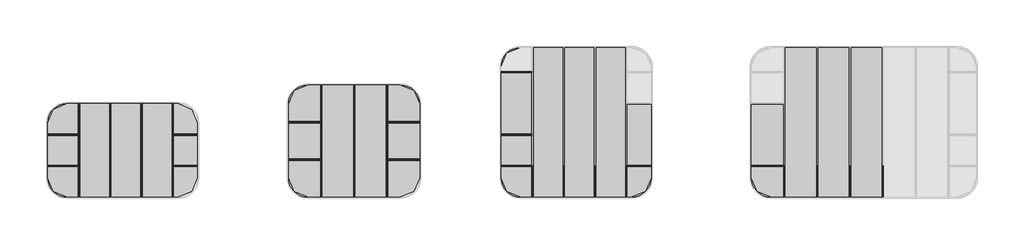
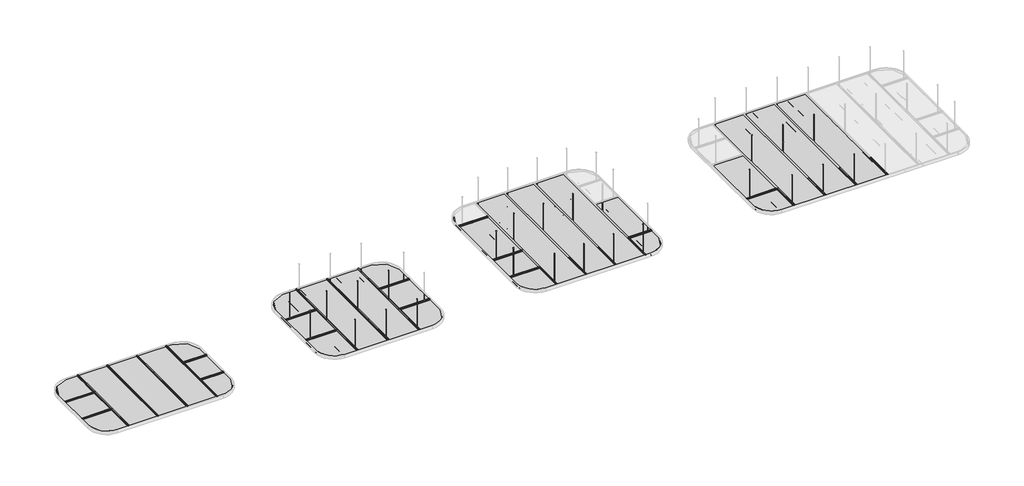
# One storey, part 1 of 4: 66 members, 64 plates.
"""IFC4 building model written with IfcOpenShell, lengths in millimetres."""

from ifc_helpers import new_model, si_unit, origin, place, context, project, spatial, transform, mapped, element, save
from components import circular_mullion_88ff0090, circular_mullion_f9b5ef4a, circular_mullion_51bf8350, circular_mullion_cross_tees_bf580255, circular_mullion_hub_cas_c634fec4, circular_mullion_hub_cas_e21eebc4, circular_mullion_hub_cas_816afe74, circular_mullion_hub_cas_a36db33c, circular_mullion_hub_cas_5b569fee, circular_mullion_hub_cas_b4c4e7a3, circular_mullion_hub_cas_db5252f6, circular_mullion_hub_cas_7fad5990, plate_458993fd, plate_e06be09b, plate_2f8602be, plate_c92e4635, plate_8db3f6ee, system_panel_solid_b9d0c9b5, system_panel_solid_64a149d8, system_panel_solid_2d10ba32, system_panel_solid_5210ac0e, system_panel_solid_d1304e09, system_panel_solid_6ef3f340, system_panel_solid_e6f4403d, system_panel_solid_672106cc, system_panel_solid_737758fe, system_panel_solid_25a6a522, system_panel_solid_93680b79, system_panel_solid_7204bcb4, system_panel_solid_5cfdd452, system_panel_solid_867bf48c, system_panel_solid_b85fb2bd, system_panel_solid_e52a666d, system_panel_solid_108f1732, system_panel_solid_23e9a8e2, system_panel_solid_573148bb, system_panel_solid_58763ecb

model = new_model("IFC4")

# Units and contexts
model_context = context("Model", 3, world=origin())
ifc_project = project(units=[si_unit("LENGTHUNIT", "METRE", prefix="MILLI")], contexts=[model_context])

# Site, building, storey
site = spatial("IfcSite", under=ifc_project)
building = spatial("IfcBuilding", under=site)
storey = spatial("IfcBuildingStorey", under=building, Name="Rockfon Hub", Elevation=2000.0)

# Members
placement = place(None, origin())
circular_mullion_shape = circular_mullion_88ff0090(model_context)
element("IfcMember", 1, ObjectType="Circular Mullion : Main Runners", at=placement, inside=storey, context=model_context, shape_type="MappedRepresentation", body=[
    mapped(circular_mullion_shape, transform((-2507.3919311, 9476.1970288, 2001.0), x_axis=(0.0, 1.0, 0.0), y_axis=(0.0, 0.0, -1.0), z_axis=(-1.0, 0.0, 0.0))),
])
element("IfcMember", 2, ObjectType="Circular Mullion : Main Runners", at=placement, inside=storey, context=model_context, shape_type="MappedRepresentation", body=[
    mapped(circular_mullion_shape, transform((-1907.3919311, 9476.1970288, 2001.0), x_axis=(0.0, 1.0, 0.0), y_axis=(0.0, 0.0, -1.0), z_axis=(-1.0, 0.0, 0.0))),
])
element("IfcMember", 3, ObjectType="Circular Mullion : Main Runners", at=placement, inside=storey, context=model_context, shape_type="MappedRepresentation", body=[
    mapped(circular_mullion_shape, transform((-1307.3919311, 9476.1970288, 2001.0), x_axis=(0.0, 1.0, 0.0), y_axis=(0.0, 0.0, -1.0), z_axis=(-1.0, 0.0, 0.0))),
])
element("IfcMember", 4, ObjectType="Circular Mullion : Main Runners", at=placement, inside=storey, context=model_context, shape_type="MappedRepresentation", body=[
    mapped(circular_mullion_shape, transform((-707.3919311, 9476.1970288, 2001.0), x_axis=(0.0, 1.0, 0.0), y_axis=(0.0, 0.0, -1.0), z_axis=(-1.0, 0.0, 0.0))),
])
element("IfcMember", 5, ObjectType="Circular Mullion : Main Runners", at=placement, inside=storey, context=model_context, shape_type="MappedRepresentation", body=[
    mapped(circular_mullion_shape, transform((-107.3919311, 9476.1970288, 2001.0), x_axis=(0.0, 1.0, 0.0), y_axis=(0.0, 0.0, -1.0), z_axis=(-1.0, 0.0, 0.0))),
])
element("IfcMember", 6, ObjectType="Circular Mullion : Main Runners", at=placement, inside=storey, context=model_context, shape_type="MappedRepresentation", body=[
    mapped(circular_mullion_shape, transform((15892.6080689, 7076.1970288, 2001.0), x_axis=(0.0, 1.0, 0.0), y_axis=(0.0, 0.0, -1.0), z_axis=(-1.0, 0.0, 0.0))),
])
element("IfcMember", 7, ObjectType="Circular Mullion : Main Runners", at=placement, inside=storey, context=model_context, shape_type="MappedRepresentation", body=[
    mapped(circular_mullion_shape, transform((15892.6080689, 7676.1970288, 2001.0), x_axis=(0.0, 1.0, 0.0), y_axis=(0.0, 0.0, -1.0), z_axis=(-1.0, 0.0, 0.0))),
])
circular_mullion_2_shape = circular_mullion_f9b5ef4a(model_context)
element("IfcMember", 8, ObjectType="Circular Mullion : Main Runners", at=placement, inside=storey, context=model_context, shape_type="MappedRepresentation", body=[
    mapped(circular_mullion_2_shape, transform((-3119.2981815, 9476.1970288, 2001.0), x_axis=(0.0, 1.0, 0.0), y_axis=(0.0, 0.0, -1.0), z_axis=(-1.0, 0.0, 0.0))),
])
element("IfcMember", 9, ObjectType="Circular Mullion : Main Runners", at=placement, inside=storey, context=model_context, shape_type="MappedRepresentation", body=[
    mapped(circular_mullion_2_shape, transform((3680.7018185, 9476.1970288, 2001.0), x_axis=(0.0, 1.0, 0.0), y_axis=(0.0, 0.0, -1.0), z_axis=(-1.0, 0.0, 0.0))),
])
element("IfcMember", 10, ObjectType="Circular Mullion : Main Runners", at=placement, inside=storey, context=model_context, shape_type="MappedRepresentation", body=[
    mapped(circular_mullion_2_shape, transform((3680.7018185, 10076.1970288, 2001.0), x_axis=(0.0, 1.0, 0.0), y_axis=(0.0, 0.0, -1.0), z_axis=(-1.0, 0.0, 0.0))),
])
element("IfcMember", 11, ObjectType="Circular Mullion : Main Runners", at=placement, inside=storey, context=model_context, shape_type="MappedRepresentation", body=[
    mapped(circular_mullion_2_shape, transform((3680.7018185, 10676.1970288, 2001.0), x_axis=(0.0, 1.0, 0.0), y_axis=(0.0, 0.0, -1.0), z_axis=(-1.0, 0.0, 0.0))),
])
circular_mullion_3_shape = circular_mullion_51bf8350(model_context)
element("IfcMember", 12, ObjectType="Circular Mullion : Main Runners", at=placement, inside=storey, context=model_context, shape_type="MappedRepresentation", body=[
    mapped(circular_mullion_3_shape, transform((492.6080689, 9476.1970288, 2001.0), x_axis=(0.0, 1.0, 0.0), y_axis=(0.0, 0.0, -1.0), z_axis=(-1.0, 0.0, 0.0))),
])
element("IfcMember", 13, ObjectType="Circular Mullion : Main Runners", at=placement, inside=storey, context=model_context, shape_type="MappedRepresentation", body=[
    mapped(circular_mullion_3_shape, transform((7892.6080689, 7076.1970288, 2001.0), x_axis=(0.0, 1.0, 0.0), y_axis=(0.0, 0.0, -1.0), z_axis=(-1.0, 0.0, 0.0))),
])
element("IfcMember", 14, ObjectType="Circular Mullion : Main Runners", at=placement, inside=storey, context=model_context, shape_type="MappedRepresentation", body=[
    mapped(circular_mullion_3_shape, transform((7892.6080689, 7676.1970288, 2001.0), x_axis=(0.0, 1.0, 0.0), y_axis=(0.0, 0.0, -1.0), z_axis=(-1.0, 0.0, 0.0))),
])
circular_mullion_cross_tees_shape = circular_mullion_cross_tees_bf580255(model_context)
element("IfcMember", 15, ObjectType="Circular Mullion : Cross Tees", at=placement, inside=storey, context=model_context, shape_type="MappedRepresentation", body=[
    mapped(circular_mullion_cross_tees_shape, transform((-2519.2981811, 9476.1970288, 2001.0), x_axis=(1.0, 0.0, 0.0), y_axis=(0.0, 0.0, -1.0), z_axis=(0.0, 1.0, 0.0))),
])
element("IfcMember", 16, ObjectType="Circular Mullion : Cross Tees", at=placement, inside=storey, context=model_context, shape_type="MappedRepresentation", body=[
    mapped(circular_mullion_cross_tees_shape, transform((-1919.2981811, 9476.1970288, 2001.0), x_axis=(1.0, 0.0, 0.0), y_axis=(0.0, 0.0, -1.0), z_axis=(0.0, 1.0, 0.0))),
])
element("IfcMember", 17, ObjectType="Circular Mullion : Cross Tees", at=placement, inside=storey, context=model_context, shape_type="MappedRepresentation", body=[
    mapped(circular_mullion_cross_tees_shape, transform((-1319.2981811, 9476.1970288, 2001.0), x_axis=(1.0, 0.0, 0.0), y_axis=(0.0, 0.0, -1.0), z_axis=(0.0, 1.0, 0.0))),
])
element("IfcMember", 18, ObjectType="Circular Mullion : Cross Tees", at=placement, inside=storey, context=model_context, shape_type="MappedRepresentation", body=[
    mapped(circular_mullion_cross_tees_shape, transform((-719.2981811, 9476.1970288, 2001.0), x_axis=(1.0, 0.0, 0.0), y_axis=(0.0, 0.0, -1.0), z_axis=(0.0, 1.0, 0.0))),
])
element("IfcMember", 19, ObjectType="Circular Mullion : Cross Tees", at=placement, inside=storey, context=model_context, shape_type="MappedRepresentation", body=[
    mapped(circular_mullion_cross_tees_shape, transform((-119.2981811, 9476.1970288, 2001.0), x_axis=(1.0, 0.0, 0.0), y_axis=(0.0, 0.0, -1.0), z_axis=(0.0, 1.0, 0.0))),
])
element("IfcMember", 20, ObjectType="Circular Mullion : Cross Tees", at=placement, inside=storey, context=model_context, shape_type="MappedRepresentation", body=[
    mapped(circular_mullion_cross_tees_shape, transform((480.7018189, 9476.1970288, 2001.0), x_axis=(1.0, 0.0, 0.0), y_axis=(0.0, 0.0, -1.0), z_axis=(0.0, 1.0, 0.0))),
])
element("IfcMember", 21, ObjectType="Circular Mullion : Cross Tees", at=placement, inside=storey, context=model_context, shape_type="MappedRepresentation", body=[
    mapped(circular_mullion_cross_tees_shape, transform((7880.7018189, 7676.1970288, 2001.0), x_axis=(1.0, 0.0, 0.0), y_axis=(0.0, 0.0, -1.0), z_axis=(0.0, 1.0, 0.0))),
])
element("IfcMember", 22, ObjectType="Circular Mullion : Cross Tees", at=placement, inside=storey, context=model_context, shape_type="MappedRepresentation", body=[
    mapped(circular_mullion_cross_tees_shape, transform((15880.7018189, 7676.1970288, 2001.0), x_axis=(1.0, 0.0, 0.0), y_axis=(0.0, 0.0, -1.0), z_axis=(0.0, 1.0, 0.0))),
])
element("IfcMember", 23, ObjectType="Circular Mullion : Cross Tees", at=placement, inside=storey, context=model_context, shape_type="MappedRepresentation", body=[
    mapped(circular_mullion_cross_tees_shape, transform((7880.7018189, 7076.1970288, 2001.0), x_axis=(1.0, 0.0, 0.0), y_axis=(0.0, 0.0, -1.0), z_axis=(0.0, 1.0, 0.0))),
])
element("IfcMember", 24, ObjectType="Circular Mullion : Cross Tees", at=placement, inside=storey, context=model_context, shape_type="MappedRepresentation", body=[
    mapped(circular_mullion_cross_tees_shape, transform((15880.7018189, 7076.1970288, 2001.0), x_axis=(1.0, 0.0, 0.0), y_axis=(0.0, 0.0, -1.0), z_axis=(0.0, 1.0, 0.0))),
])
circular_mullion_hub_cas_shape = circular_mullion_hub_cas_c634fec4(model_context)
element("IfcMember", 25, ObjectType="Circular Mullion : HUB CAS", at=placement, inside=storey, context=model_context, shape_type="MappedRepresentation", body=[
    mapped(circular_mullion_hub_cas_shape, transform((-10814.1481813, 7480.9870288, 2050.0), x_axis=(0.0, 1.0, 0.0), y_axis=(0.0, 0.0, -1.0), z_axis=(-1.0, 0.0, 0.0))),
])
element("IfcMember", 26, ObjectType="Circular Mullion : HUB CAS", at=placement, inside=storey, context=model_context, shape_type="MappedRepresentation", body=[
    mapped(circular_mullion_hub_cas_shape, transform((-10814.1481813, 8480.9870288, 2050.0), x_axis=(0.0, 1.0, 0.0), y_axis=(0.0, 0.0, -1.0), z_axis=(-1.0, 0.0, 0.0))),
])
element("IfcMember", 27, ObjectType="Circular Mullion : HUB CAS", at=placement, inside=storey, context=model_context, shape_type="MappedRepresentation", body=[
    mapped(circular_mullion_hub_cas_shape, transform((3685.8518187, 7480.9870288, 2050.0), x_axis=(0.0, 1.0, 0.0), y_axis=(0.0, 0.0, -1.0), z_axis=(-1.0, 0.0, 0.0))),
])
element("IfcMember", 28, ObjectType="Circular Mullion : HUB CAS", at=placement, inside=storey, context=model_context, shape_type="MappedRepresentation", body=[
    mapped(circular_mullion_hub_cas_shape, transform((3685.8518187, 8480.9870288, 2050.0), x_axis=(0.0, 1.0, 0.0), y_axis=(0.0, 0.0, -1.0), z_axis=(-1.0, 0.0, 0.0))),
])
element("IfcMember", 29, ObjectType="Circular Mullion : HUB CAS", at=placement, inside=storey, context=model_context, shape_type="MappedRepresentation", body=[
    mapped(circular_mullion_hub_cas_shape, transform((3685.8518187, 10480.9870288, 2050.0), x_axis=(0.0, 1.0, 0.0), y_axis=(0.0, 0.0, -1.0), z_axis=(-1.0, 0.0, 0.0))),
])
circular_mullion_hub_cas_2_shape = circular_mullion_hub_cas_e21eebc4(model_context)
element("IfcMember", 30, ObjectType="Circular Mullion : HUB CAS", at=placement, inside=storey, context=model_context, shape_type="MappedRepresentation", body=[
    mapped(circular_mullion_hub_cas_2_shape, transform((-6794.149257, 7480.9870288, 2050.0), x_axis=(0.0, 1.0, 0.0), y_axis=(0.0, 0.0, -1.0), z_axis=(-1.0, 0.0, 0.0))),
])
element("IfcMember", 31, ObjectType="Circular Mullion : HUB CAS", at=placement, inside=storey, context=model_context, shape_type="MappedRepresentation", body=[
    mapped(circular_mullion_hub_cas_2_shape, transform((-6794.149257, 8480.9870288, 2050.0), x_axis=(0.0, 1.0, 0.0), y_axis=(0.0, 0.0, -1.0), z_axis=(-1.0, 0.0, 0.0))),
])
element("IfcMember", 32, ObjectType="Circular Mullion : HUB CAS", at=placement, inside=storey, context=model_context, shape_type="MappedRepresentation", body=[
    mapped(circular_mullion_hub_cas_2_shape, transform((7705.850743, 7480.9870288, 2050.0), x_axis=(0.0, 1.0, 0.0), y_axis=(0.0, 0.0, -1.0), z_axis=(-1.0, 0.0, 0.0))),
])
circular_mullion_hub_cas_3_shape = circular_mullion_hub_cas_816afe74(model_context)
element("IfcMember", 33, ObjectType="Circular Mullion : HUB CAS", at=placement, inside=storey, context=model_context, shape_type="MappedRepresentation", body=[
    mapped(circular_mullion_hub_cas_3_shape, transform((-9814.148181, 9470.9870288, 2050.0), x_axis=(1.0, 0.0, 0.0), y_axis=(0.0, 0.0, -1.0), z_axis=(0.0, 1.0, 0.0))),
])
element("IfcMember", 34, ObjectType="Circular Mullion : HUB CAS", at=placement, inside=storey, context=model_context, shape_type="MappedRepresentation", body=[
    mapped(circular_mullion_hub_cas_3_shape, transform((-6814.148181, 9470.9870288, 2050.0), x_axis=(1.0, 0.0, 0.0), y_axis=(0.0, 0.0, -1.0), z_axis=(0.0, 1.0, 0.0))),
])
circular_mullion_hub_cas_4_shape = circular_mullion_hub_cas_a36db33c(model_context)
element("IfcMember", 35, ObjectType="Circular Mullion : HUB CAS", at=placement, inside=storey, context=model_context, shape_type="MappedRepresentation", body=[
    mapped(circular_mullion_hub_cas_4_shape, transform((-9814.148181, 7480.9870288, 2050.0), x_axis=(1.0, 0.0, 0.0), y_axis=(0.0, 0.0, -1.0), z_axis=(0.0, 1.0, 0.0))),
])
element("IfcMember", 36, ObjectType="Circular Mullion : HUB CAS", at=placement, inside=storey, context=model_context, shape_type="MappedRepresentation", body=[
    mapped(circular_mullion_hub_cas_4_shape, transform((-6814.148181, 7480.9870288, 2050.0), x_axis=(1.0, 0.0, 0.0), y_axis=(0.0, 0.0, -1.0), z_axis=(0.0, 1.0, 0.0))),
])
element("IfcMember", 37, ObjectType="Circular Mullion : HUB CAS", at=placement, inside=storey, context=model_context, shape_type="MappedRepresentation", body=[
    mapped(circular_mullion_hub_cas_4_shape, transform((4685.851819, 7480.9870288, 2050.0), x_axis=(1.0, 0.0, 0.0), y_axis=(0.0, 0.0, -1.0), z_axis=(0.0, 1.0, 0.0))),
])
element("IfcMember", 38, ObjectType="Circular Mullion : HUB CAS", at=placement, inside=storey, context=model_context, shape_type="MappedRepresentation", body=[
    mapped(circular_mullion_hub_cas_4_shape, transform((7685.851819, 7480.9870288, 2050.0), x_axis=(1.0, 0.0, 0.0), y_axis=(0.0, 0.0, -1.0), z_axis=(0.0, 1.0, 0.0))),
])
element("IfcMember", 39, ObjectType="Circular Mullion : HUB CAS", at=placement, inside=storey, context=model_context, shape_type="MappedRepresentation", body=[
    mapped(circular_mullion_hub_cas_4_shape, transform((12735.851819, 7480.9870288, 2050.0), x_axis=(1.0, 0.0, 0.0), y_axis=(0.0, 0.0, -1.0), z_axis=(0.0, 1.0, 0.0))),
])
element("IfcMember", 40, ObjectType="Circular Mullion : HUB CAS", at=placement, inside=storey, context=model_context, shape_type="MappedRepresentation", body=[
    mapped(circular_mullion_hub_cas_4_shape, transform((-9814.148181, 8480.9870288, 2050.0), x_axis=(1.0, 0.0, 0.0), y_axis=(0.0, 0.0, -1.0), z_axis=(0.0, 1.0, 0.0))),
])
element("IfcMember", 41, ObjectType="Circular Mullion : HUB CAS", at=placement, inside=storey, context=model_context, shape_type="MappedRepresentation", body=[
    mapped(circular_mullion_hub_cas_4_shape, transform((-6814.148181, 8480.9870288, 2050.0), x_axis=(1.0, 0.0, 0.0), y_axis=(0.0, 0.0, -1.0), z_axis=(0.0, 1.0, 0.0))),
])
element("IfcMember", 42, ObjectType="Circular Mullion : HUB CAS", at=placement, inside=storey, context=model_context, shape_type="MappedRepresentation", body=[
    mapped(circular_mullion_hub_cas_3_shape, transform((-8814.148181, 9470.9870288, 2050.0), x_axis=(1.0, 0.0, 0.0), y_axis=(0.0, 0.0, -1.0), z_axis=(0.0, 1.0, 0.0))),
])
element("IfcMember", 43, ObjectType="Circular Mullion : HUB CAS", at=placement, inside=storey, context=model_context, shape_type="MappedRepresentation", body=[
    mapped(circular_mullion_hub_cas_3_shape, transform((-7814.148181, 9470.9870288, 2050.0), x_axis=(1.0, 0.0, 0.0), y_axis=(0.0, 0.0, -1.0), z_axis=(0.0, 1.0, 0.0))),
])
element("IfcMember", 44, ObjectType="Circular Mullion : HUB CAS", at=placement, inside=storey, context=model_context, shape_type="MappedRepresentation", body=[
    mapped(circular_mullion_hub_cas_4_shape, transform((-8814.148181, 7480.9870288, 2050.0), x_axis=(1.0, 0.0, 0.0), y_axis=(0.0, 0.0, -1.0), z_axis=(0.0, 1.0, 0.0))),
])
element("IfcMember", 45, ObjectType="Circular Mullion : HUB CAS", at=placement, inside=storey, context=model_context, shape_type="MappedRepresentation", body=[
    mapped(circular_mullion_hub_cas_4_shape, transform((-7814.148181, 7480.9870288, 2050.0), x_axis=(1.0, 0.0, 0.0), y_axis=(0.0, 0.0, -1.0), z_axis=(0.0, 1.0, 0.0))),
])
element("IfcMember", 46, ObjectType="Circular Mullion : HUB CAS", at=placement, inside=storey, context=model_context, shape_type="MappedRepresentation", body=[
    mapped(circular_mullion_hub_cas_4_shape, transform((5685.851819, 7480.9870288, 2050.0), x_axis=(1.0, 0.0, 0.0), y_axis=(0.0, 0.0, -1.0), z_axis=(0.0, 1.0, 0.0))),
])
element("IfcMember", 47, ObjectType="Circular Mullion : HUB CAS", at=placement, inside=storey, context=model_context, shape_type="MappedRepresentation", body=[
    mapped(circular_mullion_hub_cas_4_shape, transform((6685.851819, 7480.9870288, 2050.0), x_axis=(1.0, 0.0, 0.0), y_axis=(0.0, 0.0, -1.0), z_axis=(0.0, 1.0, 0.0))),
])
element("IfcMember", 48, ObjectType="Circular Mullion : HUB CAS", at=placement, inside=storey, context=model_context, shape_type="MappedRepresentation", body=[
    mapped(circular_mullion_hub_cas_4_shape, transform((13785.851819, 7480.9870288, 2050.0), x_axis=(1.0, 0.0, 0.0), y_axis=(0.0, 0.0, -1.0), z_axis=(0.0, 1.0, 0.0))),
])
element("IfcMember", 49, ObjectType="Circular Mullion : HUB CAS", at=placement, inside=storey, context=model_context, shape_type="MappedRepresentation", body=[
    mapped(circular_mullion_hub_cas_4_shape, transform((14835.851819, 7480.9870288, 2050.0), x_axis=(1.0, 0.0, 0.0), y_axis=(0.0, 0.0, -1.0), z_axis=(0.0, 1.0, 0.0))),
])
element("IfcMember", 50, ObjectType="Circular Mullion : HUB CAS", at=placement, inside=storey, context=model_context, shape_type="MappedRepresentation", body=[
    mapped(circular_mullion_hub_cas_4_shape, transform((15885.851819, 7480.9870288, 2050.0), x_axis=(1.0, 0.0, 0.0), y_axis=(0.0, 0.0, -1.0), z_axis=(0.0, 1.0, 0.0))),
])
element("IfcMember", 51, ObjectType="Circular Mullion : HUB CAS", at=placement, inside=storey, context=model_context, shape_type="MappedRepresentation", body=[
    mapped(circular_mullion_hub_cas_4_shape, transform((-8814.148181, 8480.9870288, 2050.0), x_axis=(1.0, 0.0, 0.0), y_axis=(0.0, 0.0, -1.0), z_axis=(0.0, 1.0, 0.0))),
])
element("IfcMember", 52, ObjectType="Circular Mullion : HUB CAS", at=placement, inside=storey, context=model_context, shape_type="MappedRepresentation", body=[
    mapped(circular_mullion_hub_cas_4_shape, transform((-7814.148181, 8480.9870288, 2050.0), x_axis=(1.0, 0.0, 0.0), y_axis=(0.0, 0.0, -1.0), z_axis=(0.0, 1.0, 0.0))),
])
circular_mullion_hub_cas_5_shape = circular_mullion_hub_cas_5b569fee(model_context)
element("IfcMember", 53, ObjectType="Circular Mullion : HUB CAS", at=placement, inside=storey, context=model_context, shape_type="MappedRepresentation", body=[
    mapped(circular_mullion_hub_cas_5_shape, transform((-2064.148181, 10070.9870288, 2050.0), x_axis=(1.0, 0.0, 0.0), y_axis=(0.0, 0.0, -1.0), z_axis=(0.0, 1.0, 0.0))),
])
element("IfcMember", 54, ObjectType="Circular Mullion : HUB CAS", at=placement, inside=storey, context=model_context, shape_type="MappedRepresentation", body=[
    mapped(circular_mullion_hub_cas_5_shape, transform((35.851819, 10070.9870288, 2050.0), x_axis=(1.0, 0.0, 0.0), y_axis=(0.0, 0.0, -1.0), z_axis=(0.0, 1.0, 0.0))),
])
circular_mullion_hub_cas_6_shape = circular_mullion_hub_cas_b4c4e7a3(model_context)
element("IfcMember", 55, ObjectType="Circular Mullion : HUB CAS", at=placement, inside=storey, context=model_context, shape_type="MappedRepresentation", body=[
    mapped(circular_mullion_hub_cas_6_shape, transform((-2064.148181, 7680.9870288, 2050.0), x_axis=(1.0, 0.0, 0.0), y_axis=(0.0, 0.0, -1.0), z_axis=(0.0, 1.0, 0.0))),
])
element("IfcMember", 56, ObjectType="Circular Mullion : HUB CAS", at=placement, inside=storey, context=model_context, shape_type="MappedRepresentation", body=[
    mapped(circular_mullion_hub_cas_6_shape, transform((35.851819, 7680.9870288, 2050.0), x_axis=(1.0, 0.0, 0.0), y_axis=(0.0, 0.0, -1.0), z_axis=(0.0, 1.0, 0.0))),
])
element("IfcMember", 57, ObjectType="Circular Mullion : HUB CAS", at=placement, inside=storey, context=model_context, shape_type="MappedRepresentation", body=[
    mapped(circular_mullion_hub_cas_6_shape, transform((-2064.148181, 8880.9870288, 2050.0), x_axis=(1.0, 0.0, 0.0), y_axis=(0.0, 0.0, -1.0), z_axis=(0.0, 1.0, 0.0))),
])
element("IfcMember", 58, ObjectType="Circular Mullion : HUB CAS", at=placement, inside=storey, context=model_context, shape_type="MappedRepresentation", body=[
    mapped(circular_mullion_hub_cas_6_shape, transform((35.851819, 8880.9870288, 2050.0), x_axis=(1.0, 0.0, 0.0), y_axis=(0.0, 0.0, -1.0), z_axis=(0.0, 1.0, 0.0))),
])
circular_mullion_hub_cas_7_shape = circular_mullion_hub_cas_db5252f6(model_context)
element("IfcMember", 59, ObjectType="Circular Mullion : HUB CAS", at=placement, inside=storey, context=model_context, shape_type="MappedRepresentation", body=[
    mapped(circular_mullion_hub_cas_7_shape, transform((-3114.1481813, 7680.9870288, 2050.0), x_axis=(0.0, 1.0, 0.0), y_axis=(0.0, 0.0, -1.0), z_axis=(-1.0, 0.0, 0.0))),
])
element("IfcMember", 60, ObjectType="Circular Mullion : HUB CAS", at=placement, inside=storey, context=model_context, shape_type="MappedRepresentation", body=[
    mapped(circular_mullion_hub_cas_7_shape, transform((-3114.1481813, 8880.9870288, 2050.0), x_axis=(0.0, 1.0, 0.0), y_axis=(0.0, 0.0, -1.0), z_axis=(-1.0, 0.0, 0.0))),
])
element("IfcMember", 61, ObjectType="Circular Mullion : HUB CAS", at=placement, inside=storey, context=model_context, shape_type="MappedRepresentation", body=[
    mapped(circular_mullion_hub_cas_7_shape, transform((11685.8518187, 7480.9870288, 2050.0), x_axis=(0.0, 1.0, 0.0), y_axis=(0.0, 0.0, -1.0), z_axis=(-1.0, 0.0, 0.0))),
])
circular_mullion_hub_cas_8_shape = circular_mullion_hub_cas_7fad5990(model_context)
element("IfcMember", 62, ObjectType="Circular Mullion : HUB CAS", at=placement, inside=storey, context=model_context, shape_type="MappedRepresentation", body=[
    mapped(circular_mullion_hub_cas_8_shape, transform((55.850743, 7680.9870288, 2050.0), x_axis=(0.0, 1.0, 0.0), y_axis=(0.0, 0.0, -1.0), z_axis=(-1.0, 0.0, 0.0))),
])
element("IfcMember", 63, ObjectType="Circular Mullion : HUB CAS", at=placement, inside=storey, context=model_context, shape_type="MappedRepresentation", body=[
    mapped(circular_mullion_hub_cas_8_shape, transform((55.850743, 8880.9870288, 2050.0), x_axis=(0.0, 1.0, 0.0), y_axis=(0.0, 0.0, -1.0), z_axis=(-1.0, 0.0, 0.0))),
])
element("IfcMember", 64, ObjectType="Circular Mullion : HUB CAS", at=placement, inside=storey, context=model_context, shape_type="MappedRepresentation", body=[
    mapped(circular_mullion_hub_cas_6_shape, transform((-1014.148181, 7680.9870288, 2050.0), x_axis=(1.0, 0.0, 0.0), y_axis=(0.0, 0.0, -1.0), z_axis=(0.0, 1.0, 0.0))),
])
element("IfcMember", 65, ObjectType="Circular Mullion : HUB CAS", at=placement, inside=storey, context=model_context, shape_type="MappedRepresentation", body=[
    mapped(circular_mullion_hub_cas_5_shape, transform((-1014.148181, 10070.9870288, 2050.0), x_axis=(1.0, 0.0, 0.0), y_axis=(0.0, 0.0, -1.0), z_axis=(0.0, 1.0, 0.0))),
])
element("IfcMember", 66, ObjectType="Circular Mullion : HUB CAS", at=placement, inside=storey, context=model_context, shape_type="MappedRepresentation", body=[
    mapped(circular_mullion_hub_cas_6_shape, transform((-1014.148181, 8880.9870288, 2050.0), x_axis=(1.0, 0.0, 0.0), y_axis=(0.0, 0.0, -1.0), z_axis=(0.0, 1.0, 0.0))),
])

# Plates
plate_shape = plate_458993fd(model_context)
element("IfcPlate", 67, ObjectType="Rockfon X CORNER 2 : Rockfon Blanka X", at=placement, inside=storey, context=model_context, shape_type="MappedRepresentation", body=[
    mapped(plate_shape, transform((-10519.2981813, 6476.1970288, 2001.0), x_axis=(1.0, 0.0, 0.0), y_axis=(0.0, 0.0, -1.0), z_axis=(0.0, 1.0, 0.0))),
])
element("IfcPlate", 68, ObjectType="Rockfon X CORNER 2 : Rockfon Blanka X", at=placement, inside=storey, context=model_context, shape_type="MappedRepresentation", body=[
    mapped(plate_shape, transform((-2819.2981813, 6476.1970288, 2001.0), x_axis=(1.0, 0.0, 0.0), y_axis=(0.0, 0.0, -1.0), z_axis=(0.0, 1.0, 0.0))),
])
element("IfcPlate", 69, ObjectType="Rockfon X CORNER 2 : Rockfon Blanka X", at=placement, inside=storey, context=model_context, shape_type="MappedRepresentation", body=[
    mapped(plate_shape, transform((3980.7018187, 6476.1970288, 2001.0), x_axis=(1.0, 0.0, 0.0), y_axis=(0.0, 0.0, -1.0), z_axis=(0.0, 1.0, 0.0))),
])
element("IfcPlate", 70, ObjectType="Rockfon X CORNER 2 : Rockfon Blanka X", at=placement, inside=storey, context=model_context, shape_type="MappedRepresentation", body=[
    mapped(plate_shape, transform((11980.7018187, 6476.1970288, 2001.0), x_axis=(1.0, 0.0, 0.0), y_axis=(0.0, 0.0, -1.0), z_axis=(0.0, 1.0, 0.0))),
])
plate_2_shape = plate_e06be09b(model_context)
element("IfcPlate", 71, ObjectType="Rockfon X CORNER 3 : Rockfon Blanka X", at=placement, inside=storey, context=model_context, shape_type="MappedRepresentation", body=[
    mapped(plate_2_shape, transform((8180.7018187, 6476.1970288, 2001.0), x_axis=(1.0, 0.0, 0.0), y_axis=(0.0, 0.0, -1.0), z_axis=(0.0, 1.0, 0.0))),
])
plate_3_shape = plate_2f8602be(model_context)
element("IfcPlate", 72, ObjectType="Rockfon X CORNER 4 : Rockfon Blanka X", at=placement, inside=storey, context=model_context, shape_type="MappedRepresentation", body=[
    mapped(plate_3_shape, transform((780.7018187, 9476.1970288, 2001.0), x_axis=(1.0, 0.0, 0.0), y_axis=(0.0, 0.0, -1.0), z_axis=(0.0, 1.0, 0.0))),
])
plate_4_shape = plate_c92e4635(model_context)
element("IfcPlate", 73, ObjectType="Rockfon X CORNER : Rockfon Blanka X", at=placement, inside=storey, context=model_context, shape_type="MappedRepresentation", body=[
    mapped(plate_4_shape, transform((-10519.2981813, 8876.1970288, 2001.0), x_axis=(1.0, 0.0, 0.0), y_axis=(0.0, 0.0, -1.0), z_axis=(0.0, 1.0, 0.0))),
])
element("IfcPlate", 74, ObjectType="Rockfon X CORNER : Rockfon Blanka X", at=placement, inside=storey, context=model_context, shape_type="MappedRepresentation", body=[
    mapped(plate_4_shape, transform((-2819.2981813, 9476.1970288, 2001.0), x_axis=(1.0, 0.0, 0.0), y_axis=(0.0, 0.0, -1.0), z_axis=(0.0, 1.0, 0.0))),
])
element("IfcPlate", 75, ObjectType="Rockfon X CORNER : Rockfon Blanka X", at=placement, inside=storey, context=model_context, shape_type="MappedRepresentation", body=[
    mapped(plate_4_shape, transform((3980.7018187, 10676.1970288, 2001.0), x_axis=(1.0, 0.0, 0.0), y_axis=(0.0, 0.0, -1.0), z_axis=(0.0, 1.0, 0.0))),
])
plate_5_shape = plate_8db3f6ee(model_context)
element("IfcPlate", 76, ObjectType="Rockfon Blanka X : Rockfon Blanka X", at=placement, inside=storey, context=model_context, shape_type="MappedRepresentation", body=[
    mapped(plate_5_shape, transform((-9919.2981811, 6476.1970288, 2001.0), x_axis=(1.0, 0.0, 0.0), y_axis=(0.0, 0.0, -1.0), z_axis=(0.0, 1.0, 0.0))),
])
element("IfcPlate", 77, ObjectType="Rockfon Blanka X : Rockfon Blanka X", at=placement, inside=storey, context=model_context, shape_type="MappedRepresentation", body=[
    mapped(plate_5_shape, transform((-9919.2981811, 8876.1970288, 2001.0), x_axis=(1.0, 0.0, 0.0), y_axis=(0.0, 0.0, -1.0), z_axis=(0.0, 1.0, 0.0))),
])
element("IfcPlate", 78, ObjectType="Rockfon Blanka X : Rockfon Blanka X", at=placement, inside=storey, context=model_context, shape_type="MappedRepresentation", body=[
    mapped(plate_5_shape, transform((-10519.2981813, 7076.1970288, 2001.0), x_axis=(1.0, 0.0, 0.0), y_axis=(0.0, 0.0, -1.0), z_axis=(0.0, 1.0, 0.0))),
])
element("IfcPlate", 79, ObjectType="Rockfon Blanka X : Rockfon Blanka X", at=placement, inside=storey, context=model_context, shape_type="MappedRepresentation", body=[
    mapped(plate_5_shape, transform((-10519.2981813, 8276.1970288, 2001.0), x_axis=(1.0, 0.0, 0.0), y_axis=(0.0, 0.0, -1.0), z_axis=(0.0, 1.0, 0.0))),
])
element("IfcPlate", 80, ObjectType="Rockfon Blanka X : Rockfon Blanka X", at=placement, inside=storey, context=model_context, shape_type="MappedRepresentation", body=[
    mapped(plate_5_shape, transform((-2219.2981811, 6476.1970288, 2001.0), x_axis=(1.0, 0.0, 0.0), y_axis=(0.0, 0.0, -1.0), z_axis=(0.0, 1.0, 0.0))),
])
element("IfcPlate", 81, ObjectType="Rockfon Blanka X : Rockfon Blanka X", at=placement, inside=storey, context=model_context, shape_type="MappedRepresentation", body=[
    mapped(plate_5_shape, transform((-2219.2981811, 8876.1970288, 2001.0), x_axis=(1.0, 0.0, 0.0), y_axis=(0.0, 0.0, -1.0), z_axis=(0.0, 1.0, 0.0))),
])
element("IfcPlate", 82, ObjectType="Rockfon Blanka X : Rockfon Blanka X", at=placement, inside=storey, context=model_context, shape_type="MappedRepresentation", body=[
    mapped(plate_5_shape, transform((-2819.2981813, 7076.1970288, 2001.0), x_axis=(1.0, 0.0, 0.0), y_axis=(0.0, 0.0, -1.0), z_axis=(0.0, 1.0, 0.0))),
])
element("IfcPlate", 83, ObjectType="Rockfon Blanka X : Rockfon Blanka X", at=placement, inside=storey, context=model_context, shape_type="MappedRepresentation", body=[
    mapped(plate_5_shape, transform((-2819.2981813, 8276.1970288, 2001.0), x_axis=(1.0, 0.0, 0.0), y_axis=(0.0, 0.0, -1.0), z_axis=(0.0, 1.0, 0.0))),
])
element("IfcPlate", 84, ObjectType="Rockfon Blanka X : Rockfon Blanka X", at=placement, inside=storey, context=model_context, shape_type="MappedRepresentation", body=[
    mapped(plate_5_shape, transform((-2819.2981813, 8876.1970288, 2001.0), x_axis=(1.0, 0.0, 0.0), y_axis=(0.0, 0.0, -1.0), z_axis=(0.0, 1.0, 0.0))),
])
element("IfcPlate", 85, ObjectType="Rockfon Blanka X : Rockfon Blanka X", at=placement, inside=storey, context=model_context, shape_type="MappedRepresentation", body=[
    mapped(plate_5_shape, transform((-2219.2981811, 9476.1970288, 2001.0), x_axis=(1.0, 0.0, 0.0), y_axis=(0.0, 0.0, -1.0), z_axis=(0.0, 1.0, 0.0))),
])
element("IfcPlate", 86, ObjectType="Rockfon Blanka X : Rockfon Blanka X", at=placement, inside=storey, context=model_context, shape_type="MappedRepresentation", body=[
    mapped(plate_5_shape, transform((-1619.2981811, 9476.1970288, 2001.0), x_axis=(1.0, 0.0, 0.0), y_axis=(0.0, 0.0, -1.0), z_axis=(0.0, 1.0, 0.0))),
])
element("IfcPlate", 87, ObjectType="Rockfon Blanka X : Rockfon Blanka X", at=placement, inside=storey, context=model_context, shape_type="MappedRepresentation", body=[
    mapped(plate_5_shape, transform((-1019.2981811, 9476.1970288, 2001.0), x_axis=(1.0, 0.0, 0.0), y_axis=(0.0, 0.0, -1.0), z_axis=(0.0, 1.0, 0.0))),
])
element("IfcPlate", 88, ObjectType="Rockfon Blanka X : Rockfon Blanka X", at=placement, inside=storey, context=model_context, shape_type="MappedRepresentation", body=[
    mapped(plate_5_shape, transform((-419.2981811, 9476.1970288, 2001.0), x_axis=(1.0, 0.0, 0.0), y_axis=(0.0, 0.0, -1.0), z_axis=(0.0, 1.0, 0.0))),
])
element("IfcPlate", 89, ObjectType="Rockfon Blanka X : Rockfon Blanka X", at=placement, inside=storey, context=model_context, shape_type="MappedRepresentation", body=[
    mapped(plate_5_shape, transform((180.7018189, 9476.1970288, 2001.0), x_axis=(1.0, 0.0, 0.0), y_axis=(0.0, 0.0, -1.0), z_axis=(0.0, 1.0, 0.0))),
])
element("IfcPlate", 90, ObjectType="Rockfon Blanka X : Rockfon Blanka X", at=placement, inside=storey, context=model_context, shape_type="MappedRepresentation", body=[
    mapped(plate_5_shape, transform((4580.7018189, 6476.1970288, 2001.0), x_axis=(1.0, 0.0, 0.0), y_axis=(0.0, 0.0, -1.0), z_axis=(0.0, 1.0, 0.0))),
])
element("IfcPlate", 91, ObjectType="Rockfon Blanka X : Rockfon Blanka X", at=placement, inside=storey, context=model_context, shape_type="MappedRepresentation", body=[
    mapped(plate_5_shape, transform((4580.7018189, 8876.1970288, 2001.0), x_axis=(1.0, 0.0, 0.0), y_axis=(0.0, 0.0, -1.0), z_axis=(0.0, 1.0, 0.0))),
])
element("IfcPlate", 92, ObjectType="Rockfon Blanka X : Rockfon Blanka X", at=placement, inside=storey, context=model_context, shape_type="MappedRepresentation", body=[
    mapped(plate_5_shape, transform((3980.7018187, 7076.1970288, 2001.0), x_axis=(1.0, 0.0, 0.0), y_axis=(0.0, 0.0, -1.0), z_axis=(0.0, 1.0, 0.0))),
])
element("IfcPlate", 93, ObjectType="Rockfon Blanka X : Rockfon Blanka X", at=placement, inside=storey, context=model_context, shape_type="MappedRepresentation", body=[
    mapped(plate_5_shape, transform((3980.7018187, 8276.1970288, 2001.0), x_axis=(1.0, 0.0, 0.0), y_axis=(0.0, 0.0, -1.0), z_axis=(0.0, 1.0, 0.0))),
])
element("IfcPlate", 94, ObjectType="Rockfon Blanka X : Rockfon Blanka X", at=placement, inside=storey, context=model_context, shape_type="MappedRepresentation", body=[
    mapped(plate_5_shape, transform((3980.7018187, 8876.1970288, 2001.0), x_axis=(1.0, 0.0, 0.0), y_axis=(0.0, 0.0, -1.0), z_axis=(0.0, 1.0, 0.0))),
])
element("IfcPlate", 95, ObjectType="Rockfon Blanka X : Rockfon Blanka X", at=placement, inside=storey, context=model_context, shape_type="MappedRepresentation", body=[
    mapped(plate_5_shape, transform((3980.7018187, 9476.1970288, 2001.0), x_axis=(1.0, 0.0, 0.0), y_axis=(0.0, 0.0, -1.0), z_axis=(0.0, 1.0, 0.0))),
])
element("IfcPlate", 96, ObjectType="Rockfon Blanka X : Rockfon Blanka X", at=placement, inside=storey, context=model_context, shape_type="MappedRepresentation", body=[
    mapped(plate_5_shape, transform((8180.7018187, 7076.1970288, 2001.0), x_axis=(1.0, 0.0, 0.0), y_axis=(0.0, 0.0, -1.0), z_axis=(0.0, 1.0, 0.0))),
])
element("IfcPlate", 97, ObjectType="Rockfon Blanka X : Rockfon Blanka X", at=placement, inside=storey, context=model_context, shape_type="MappedRepresentation", body=[
    mapped(plate_5_shape, transform((8180.7018187, 7676.1970288, 2001.0), x_axis=(1.0, 0.0, 0.0), y_axis=(0.0, 0.0, -1.0), z_axis=(0.0, 1.0, 0.0))),
])
element("IfcPlate", 98, ObjectType="Rockfon Blanka X : Rockfon Blanka X", at=placement, inside=storey, context=model_context, shape_type="MappedRepresentation", body=[
    mapped(plate_5_shape, transform((3980.7018187, 10076.1970288, 2001.0), x_axis=(1.0, 0.0, 0.0), y_axis=(0.0, 0.0, -1.0), z_axis=(0.0, 1.0, 0.0))),
])
element("IfcPlate", 99, ObjectType="Rockfon Blanka X : Rockfon Blanka X", at=placement, inside=storey, context=model_context, shape_type="MappedRepresentation", body=[
    mapped(plate_5_shape, transform((12580.7018189, 6476.1970288, 2001.0), x_axis=(1.0, 0.0, 0.0), y_axis=(0.0, 0.0, -1.0), z_axis=(0.0, 1.0, 0.0))),
])
element("IfcPlate", 100, ObjectType="Rockfon Blanka X : Rockfon Blanka X", at=placement, inside=storey, context=model_context, shape_type="MappedRepresentation", body=[
    mapped(plate_5_shape, transform((11980.7018187, 7076.1970288, 2001.0), x_axis=(1.0, 0.0, 0.0), y_axis=(0.0, 0.0, -1.0), z_axis=(0.0, 1.0, 0.0))),
])
system_panel_solid_shape = system_panel_solid_b9d0c9b5(model_context)
element("IfcPlate", 101, ObjectType="System Panel : Solid", at=placement, inside=storey, context=model_context, shape_type="MappedRepresentation", body=[
    mapped(system_panel_solid_shape, transform((-10314.1481811, 6480.9870288, 2050.0), x_axis=(1.0, 0.0, 0.0), y_axis=(0.0, 0.0, -1.0), z_axis=(0.0, 1.0, 0.0))),
])
element("IfcPlate", 102, ObjectType="System Panel : Solid", at=placement, inside=storey, context=model_context, shape_type="MappedRepresentation", body=[
    mapped(system_panel_solid_shape, transform((4185.8518189, 6480.9870288, 2050.0), x_axis=(1.0, 0.0, 0.0), y_axis=(0.0, 0.0, -1.0), z_axis=(0.0, 1.0, 0.0))),
])
system_panel_solid_2_shape = system_panel_solid_64a149d8(model_context)
element("IfcPlate", 103, ObjectType="System Panel : Solid", at=placement, inside=storey, context=model_context, shape_type="MappedRepresentation", body=[
    mapped(system_panel_solid_2_shape, transform((-10314.1481811, 7480.9870288, 2050.0), x_axis=(1.0, 0.0, 0.0), y_axis=(0.0, 0.0, -1.0), z_axis=(0.0, 1.0, 0.0))),
])
element("IfcPlate", 104, ObjectType="System Panel : Solid", at=placement, inside=storey, context=model_context, shape_type="MappedRepresentation", body=[
    mapped(system_panel_solid_2_shape, transform((4185.8518189, 7480.9870288, 2050.0), x_axis=(1.0, 0.0, 0.0), y_axis=(0.0, 0.0, -1.0), z_axis=(0.0, 1.0, 0.0))),
])
system_panel_solid_3_shape = system_panel_solid_2d10ba32(model_context)
element("IfcPlate", 105, ObjectType="System Panel : Solid", at=placement, inside=storey, context=model_context, shape_type="MappedRepresentation", body=[
    mapped(system_panel_solid_3_shape, transform((-6419.1481811, 6480.9870288, 2050.0), x_axis=(1.0, 0.0, 0.0), y_axis=(0.0, 0.0, -1.0), z_axis=(0.0, 1.0, 0.0))),
])
element("IfcPlate", 106, ObjectType="System Panel : Solid", at=placement, inside=storey, context=model_context, shape_type="MappedRepresentation", body=[
    mapped(system_panel_solid_3_shape, transform((8080.8518189, 6480.9870288, 2050.0), x_axis=(1.0, 0.0, 0.0), y_axis=(0.0, 0.0, -1.0), z_axis=(0.0, 1.0, 0.0))),
])
system_panel_solid_4_shape = system_panel_solid_5210ac0e(model_context)
element("IfcPlate", 107, ObjectType="System Panel : Solid", at=placement, inside=storey, context=model_context, shape_type="MappedRepresentation", body=[
    mapped(system_panel_solid_4_shape, transform((-6419.1481811, 7480.9870288, 2050.0), x_axis=(1.0, 0.0, 0.0), y_axis=(0.0, 0.0, -1.0), z_axis=(0.0, 1.0, 0.0))),
])
system_panel_solid_5_shape = system_panel_solid_d1304e09(model_context)
element("IfcPlate", 108, ObjectType="System Panel : Solid", at=placement, inside=storey, context=model_context, shape_type="MappedRepresentation", body=[
    mapped(system_panel_solid_5_shape, transform((-10314.1481811, 8480.9870288, 2050.0), x_axis=(1.0, 0.0, 0.0), y_axis=(0.0, 0.0, -1.0), z_axis=(0.0, 1.0, 0.0))),
])
system_panel_solid_6_shape = system_panel_solid_6ef3f340(model_context)
element("IfcPlate", 109, ObjectType="System Panel : Solid", at=placement, inside=storey, context=model_context, shape_type="MappedRepresentation", body=[
    mapped(system_panel_solid_6_shape, transform((-6419.1481811, 8480.9870288, 2050.0), x_axis=(1.0, 0.0, 0.0), y_axis=(0.0, 0.0, -1.0), z_axis=(0.0, 1.0, 0.0))),
])
system_panel_solid_7_shape = system_panel_solid_e6f4403d(model_context)
element("IfcPlate", 110, ObjectType="System Panel : Solid", at=placement, inside=storey, context=model_context, shape_type="MappedRepresentation", body=[
    mapped(system_panel_solid_7_shape, transform((-2589.1481811, 6480.9870288, 2050.0), x_axis=(1.0, 0.0, 0.0), y_axis=(0.0, 0.0, -1.0), z_axis=(0.0, 1.0, 0.0))),
])
system_panel_solid_8_shape = system_panel_solid_672106cc(model_context)
element("IfcPlate", 111, ObjectType="System Panel : Solid", at=placement, inside=storey, context=model_context, shape_type="MappedRepresentation", body=[
    mapped(system_panel_solid_8_shape, transform((-2589.1481811, 7680.9870288, 2050.0), x_axis=(1.0, 0.0, 0.0), y_axis=(0.0, 0.0, -1.0), z_axis=(0.0, 1.0, 0.0))),
])
system_panel_solid_9_shape = system_panel_solid_737758fe(model_context)
element("IfcPlate", 112, ObjectType="System Panel : Solid", at=placement, inside=storey, context=model_context, shape_type="MappedRepresentation", body=[
    mapped(system_panel_solid_9_shape, transform((555.8518189, 6480.9870288, 2050.0), x_axis=(1.0, 0.0, 0.0), y_axis=(0.0, 0.0, -1.0), z_axis=(0.0, 1.0, 0.0))),
])
system_panel_solid_10_shape = system_panel_solid_25a6a522(model_context)
element("IfcPlate", 113, ObjectType="System Panel : Solid", at=placement, inside=storey, context=model_context, shape_type="MappedRepresentation", body=[
    mapped(system_panel_solid_10_shape, transform((555.8518189, 7680.9870288, 2050.0), x_axis=(1.0, 0.0, 0.0), y_axis=(0.0, 0.0, -1.0), z_axis=(0.0, 1.0, 0.0))),
])
system_panel_solid_11_shape = system_panel_solid_93680b79(model_context)
element("IfcPlate", 114, ObjectType="System Panel : Solid", at=placement, inside=storey, context=model_context, shape_type="MappedRepresentation", body=[
    mapped(system_panel_solid_11_shape, transform((-2589.1481811, 8880.9870288, 2050.0), x_axis=(1.0, 0.0, 0.0), y_axis=(0.0, 0.0, -1.0), z_axis=(0.0, 1.0, 0.0))),
])
system_panel_solid_12_shape = system_panel_solid_7204bcb4(model_context)
element("IfcPlate", 115, ObjectType="System Panel : Solid", at=placement, inside=storey, context=model_context, shape_type="MappedRepresentation", body=[
    mapped(system_panel_solid_12_shape, transform((555.8518189, 8880.9870288, 2050.0), x_axis=(1.0, 0.0, 0.0), y_axis=(0.0, 0.0, -1.0), z_axis=(0.0, 1.0, 0.0))),
])
system_panel_solid_13_shape = system_panel_solid_5cfdd452(model_context)
element("IfcPlate", 116, ObjectType="System Panel : Solid", at=placement, inside=storey, context=model_context, shape_type="MappedRepresentation", body=[
    mapped(system_panel_solid_13_shape, transform((12210.8518189, 6480.9870288, 2050.0), x_axis=(1.0, 0.0, 0.0), y_axis=(0.0, 0.0, -1.0), z_axis=(0.0, 1.0, 0.0))),
])
system_panel_solid_14_shape = system_panel_solid_867bf48c(model_context)
element("IfcPlate", 117, ObjectType="System Panel : Solid", at=placement, inside=storey, context=model_context, shape_type="MappedRepresentation", body=[
    mapped(system_panel_solid_14_shape, transform((12210.8518189, 7480.9870288, 2050.0), x_axis=(1.0, 0.0, 0.0), y_axis=(0.0, 0.0, -1.0), z_axis=(0.0, 1.0, 0.0))),
])
system_panel_solid_15_shape = system_panel_solid_b85fb2bd(model_context)
element("IfcPlate", 118, ObjectType="System Panel : Solid", at=placement, inside=storey, context=model_context, shape_type="MappedRepresentation", body=[
    mapped(system_panel_solid_15_shape, transform((13260.851819, 6480.9870288, 2050.0), x_axis=(1.0, 0.0, 0.0), y_axis=(0.0, 0.0, -1.0), z_axis=(0.0, 1.0, 0.0))),
])
element("IfcPlate", 119, ObjectType="System Panel : Solid", at=placement, inside=storey, context=model_context, shape_type="MappedRepresentation", body=[
    mapped(system_panel_solid_15_shape, transform((14310.851819, 6480.9870288, 2050.0), x_axis=(1.0, 0.0, 0.0), y_axis=(0.0, 0.0, -1.0), z_axis=(0.0, 1.0, 0.0))),
])
element("IfcPlate", 120, ObjectType="System Panel : Solid", at=placement, inside=storey, context=model_context, shape_type="MappedRepresentation", body=[
    mapped(system_panel_solid_15_shape, transform((15360.851819, 6480.9870288, 2050.0), x_axis=(1.0, 0.0, 0.0), y_axis=(0.0, 0.0, -1.0), z_axis=(0.0, 1.0, 0.0))),
])
system_panel_solid_16_shape = system_panel_solid_e52a666d(model_context)
element("IfcPlate", 121, ObjectType="System Panel : Solid", at=placement, inside=storey, context=model_context, shape_type="MappedRepresentation", body=[
    mapped(system_panel_solid_16_shape, transform((4185.8518189, 8480.9870288, 2050.0), x_axis=(1.0, 0.0, 0.0), y_axis=(0.0, 0.0, -1.0), z_axis=(0.0, 1.0, 0.0))),
])
system_panel_solid_17_shape = system_panel_solid_108f1732(model_context)
element("IfcPlate", 122, ObjectType="System Panel : Solid", at=placement, inside=storey, context=model_context, shape_type="MappedRepresentation", body=[
    mapped(system_panel_solid_17_shape, transform((8080.8518189, 7480.9870288, 2050.0), x_axis=(1.0, 0.0, 0.0), y_axis=(0.0, 0.0, -1.0), z_axis=(0.0, 1.0, 0.0))),
])
system_panel_solid_18_shape = system_panel_solid_23e9a8e2(model_context)
element("IfcPlate", 123, ObjectType="System Panel : Solid", at=placement, inside=storey, context=model_context, shape_type="MappedRepresentation", body=[
    mapped(system_panel_solid_18_shape, transform((5185.851819, 6480.9870288, 2050.0), x_axis=(1.0, 0.0, 0.0), y_axis=(0.0, 0.0, -1.0), z_axis=(0.0, 1.0, 0.0))),
])
element("IfcPlate", 124, ObjectType="System Panel : Solid", at=placement, inside=storey, context=model_context, shape_type="MappedRepresentation", body=[
    mapped(system_panel_solid_18_shape, transform((6185.851819, 6480.9870288, 2050.0), x_axis=(1.0, 0.0, 0.0), y_axis=(0.0, 0.0, -1.0), z_axis=(0.0, 1.0, 0.0))),
])
element("IfcPlate", 125, ObjectType="System Panel : Solid", at=placement, inside=storey, context=model_context, shape_type="MappedRepresentation", body=[
    mapped(system_panel_solid_18_shape, transform((7185.851819, 6480.9870288, 2050.0), x_axis=(1.0, 0.0, 0.0), y_axis=(0.0, 0.0, -1.0), z_axis=(0.0, 1.0, 0.0))),
])
system_panel_solid_19_shape = system_panel_solid_573148bb(model_context)
element("IfcPlate", 126, ObjectType="System Panel : Solid", at=placement, inside=storey, context=model_context, shape_type="MappedRepresentation", body=[
    mapped(system_panel_solid_19_shape, transform((-1539.148181, 6480.9870288, 2050.0), x_axis=(1.0, 0.0, 0.0), y_axis=(0.0, 0.0, -1.0), z_axis=(0.0, 1.0, 0.0))),
])
element("IfcPlate", 127, ObjectType="System Panel : Solid", at=placement, inside=storey, context=model_context, shape_type="MappedRepresentation", body=[
    mapped(system_panel_solid_19_shape, transform((-489.148181, 6480.9870288, 2050.0), x_axis=(1.0, 0.0, 0.0), y_axis=(0.0, 0.0, -1.0), z_axis=(0.0, 1.0, 0.0))),
])
system_panel_solid_20_shape = system_panel_solid_58763ecb(model_context)
element("IfcPlate", 128, ObjectType="System Panel : Solid", at=placement, inside=storey, context=model_context, shape_type="MappedRepresentation", body=[
    mapped(system_panel_solid_20_shape, transform((-9314.148181, 6480.9870288, 2050.0), x_axis=(1.0, 0.0, 0.0), y_axis=(0.0, 0.0, -1.0), z_axis=(0.0, 1.0, 0.0))),
])
element("IfcPlate", 129, ObjectType="System Panel : Solid", at=placement, inside=storey, context=model_context, shape_type="MappedRepresentation", body=[
    mapped(system_panel_solid_20_shape, transform((-8314.148181, 6480.9870288, 2050.0), x_axis=(1.0, 0.0, 0.0), y_axis=(0.0, 0.0, -1.0), z_axis=(0.0, 1.0, 0.0))),
])
element("IfcPlate", 130, ObjectType="System Panel : Solid", at=placement, inside=storey, context=model_context, shape_type="MappedRepresentation", body=[
    mapped(system_panel_solid_20_shape, transform((-7314.148181, 6480.9870288, 2050.0), x_axis=(1.0, 0.0, 0.0), y_axis=(0.0, 0.0, -1.0), z_axis=(0.0, 1.0, 0.0))),
])

save(model, "model.ifc")
